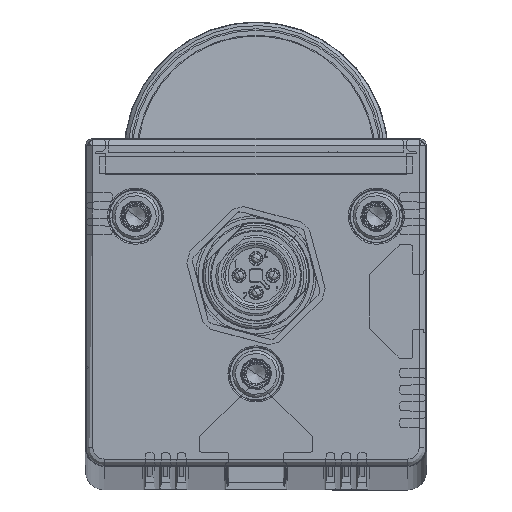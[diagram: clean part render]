
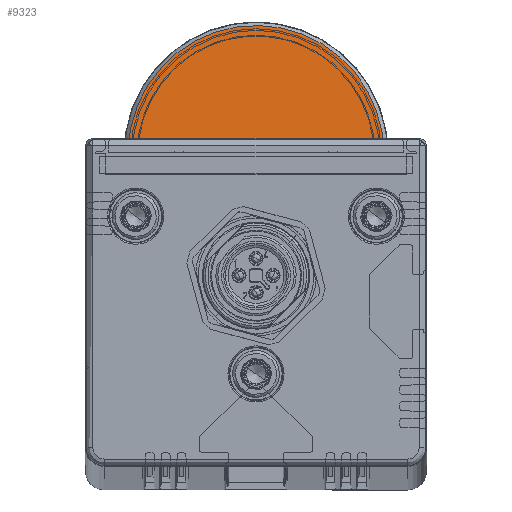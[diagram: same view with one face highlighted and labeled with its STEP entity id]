
A CAD part, top view. The second image highlights one B-rep face of the part: STEP entity #9323.
In plain terms, the highlighted planar face has unit normal (0, 0.087, 0.996).
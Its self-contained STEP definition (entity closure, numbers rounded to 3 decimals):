
#428 = CARTESIAN_POINT ( 'NONE',  ( -4.987, 20.248, -10.127 ) ) ;
#604 = EDGE_CURVE ( 'NONE', #14515, #14557, #5050, .T. ) ;
#644 = CARTESIAN_POINT ( 'NONE',  ( 9.634, 18.309, -9.957 ) ) ;
#1712 = EDGE_CURVE ( 'NONE', #14557, #14515, #4593, .T. ) ;
#2250 = CARTESIAN_POINT ( 'NONE',  ( 18.181, 7.762, -9.035 ) ) ;
#2461 = CARTESIAN_POINT ( 'NONE',  ( -16.649, 11.217, -9.337 ) ) ;
#3841 = CARTESIAN_POINT ( 'NONE',  ( 12.696, 16.094, -9.764 ) ) ;
#3955 = CARTESIAN_POINT ( 'NONE',  ( 6.196, 19.879, -10.095 ) ) ;
#4173 = CARTESIAN_POINT ( 'NONE',  ( -9.634, 18.309, -9.957 ) ) ;
#4593 = LINE ( 'NONE', #16827, #8621 ) ;
#5050 = B_SPLINE_CURVE_WITH_KNOTS ( 'NONE', 3,
 ( #19362, #12686, #14496, #7373, #2250, #9278, #19255, #14383, #19472, #3841, #19690, #644, #15966, #3955, #17655, #9067, #21417, #7593, #9176, #428, #5891, #12799, #4173, #11092, #17780, #10756, #5768, #2461, #9390, #7138, #14052, #20960, #5446, #21081 ),
 .UNSPECIFIED., .F., .F.,
 ( 4, 2, 2, 2, 2, 2, 2, 2, 2, 2, 2, 2, 2, 2, 2, 2, 4 ),
 ( 0., 0.062, 0.125, 0.187, 0.25, 0.312, 0.375, 0.437, 0.5, 0.562, 0.625, 0.687, 0.75, 0.812, 0.875, 0.937, 1. ),
 .UNSPECIFIED. ) ;
#5446 = CARTESIAN_POINT ( 'NONE',  ( -19.116, 2.816, -8.602 ) ) ;
#5768 = CARTESIAN_POINT ( 'NONE',  ( -15.264, 13.321, -9.521 ) ) ;
#5891 = CARTESIAN_POINT ( 'NONE',  ( -6.197, 19.879, -10.095 ) ) ;
#7138 = CARTESIAN_POINT ( 'NONE',  ( -18.181, 7.763, -9.035 ) ) ;
#7153 = CARTESIAN_POINT ( 'NONE',  ( -19.102, 1.555, -8.492 ) ) ;
#7266 = CARTESIAN_POINT ( 'NONE',  ( 19.102, 1.555, -8.492 ) ) ;
#7373 = CARTESIAN_POINT ( 'NONE',  ( 18.537, 6.55, -8.929 ) ) ;
#7593 = CARTESIAN_POINT ( 'NONE',  ( -1.259, 20.868, -10.181 ) ) ;
#7780 = DIRECTION ( 'NONE',  ( 1., 0., 0. ) ) ;
#8085 = CARTESIAN_POINT ( 'NONE',  ( -23.75, 1.65, -8.5 ) ) ;
#8621 = VECTOR ( 'NONE', #7780, 1000. ) ;
#9067 = CARTESIAN_POINT ( 'NONE',  ( 2.517, 20.743, -10.17 ) ) ;
#9176 = CARTESIAN_POINT ( 'NONE',  ( -2.518, 20.743, -10.17 ) ) ;
#9278 = CARTESIAN_POINT ( 'NONE',  ( 17.236, 10.097, -9.239 ) ) ;
#9323 = ADVANCED_FACE ( 'NONE', ( #14882 ), #16564, .T. ) ;
#9390 = CARTESIAN_POINT ( 'NONE',  ( -17.236, 10.097, -9.239 ) ) ;
#10756 = CARTESIAN_POINT ( 'NONE',  ( -14.468, 14.303, -9.607 ) ) ;
#11092 = CARTESIAN_POINT ( 'NONE',  ( -11.723, 16.901, -9.834 ) ) ;
#11311 = EDGE_LOOP ( 'NONE', ( #14982, #18696 ) ) ;
#12686 = CARTESIAN_POINT ( 'NONE',  ( 19.116, 2.815, -8.602 ) ) ;
#12799 = CARTESIAN_POINT ( 'NONE',  ( -8.521, 18.909, -10.01 ) ) ;
#14052 = CARTESIAN_POINT ( 'NONE',  ( -18.537, 6.549, -8.929 ) ) ;
#14383 = CARTESIAN_POINT ( 'NONE',  ( 15.264, 13.321, -9.521 ) ) ;
#14496 = CARTESIAN_POINT ( 'NONE',  ( 19.005, 4.074, -8.712 ) ) ;
#14515 = VERTEX_POINT ( 'NONE', #7266 ) ;
#14557 = VERTEX_POINT ( 'NONE', #7153 ) ;
#14882 = FACE_OUTER_BOUND ( 'NONE', #11311, .T. ) ;
#14982 = ORIENTED_EDGE ( 'NONE', *, *, #1712, .T. ) ;
#14988 = DIRECTION ( 'NONE',  ( 0., 0.087, 0.996 ) ) ;
#15966 = CARTESIAN_POINT ( 'NONE',  ( 8.521, 18.908, -10.01 ) ) ;
#16564 = PLANE ( 'NONE',  #17020 ) ;
#16793 = DIRECTION ( 'NONE',  ( 0., -0.996, 0.087 ) ) ;
#16827 = CARTESIAN_POINT ( 'NONE',  ( -23.75, 1.555, -8.492 ) ) ;
#17020 = AXIS2_PLACEMENT_3D ( 'NONE', #8085, #14988, #16793 ) ;
#17655 = CARTESIAN_POINT ( 'NONE',  ( 4.988, 20.248, -10.127 ) ) ;
#17780 = CARTESIAN_POINT ( 'NONE',  ( -12.696, 16.094, -9.764 ) ) ;
#18696 = ORIENTED_EDGE ( 'NONE', *, *, #604, .T. ) ;
#19255 = CARTESIAN_POINT ( 'NONE',  ( 16.648, 11.217, -9.337 ) ) ;
#19362 = CARTESIAN_POINT ( 'NONE',  ( 19.102, 1.555, -8.492 ) ) ;
#19472 = CARTESIAN_POINT ( 'NONE',  ( 14.467, 14.303, -9.607 ) ) ;
#19690 = CARTESIAN_POINT ( 'NONE',  ( 11.723, 16.901, -9.834 ) ) ;
#20960 = CARTESIAN_POINT ( 'NONE',  ( -19.005, 4.075, -8.712 ) ) ;
#21081 = CARTESIAN_POINT ( 'NONE',  ( -19.102, 1.555, -8.492 ) ) ;
#21417 = CARTESIAN_POINT ( 'NONE',  ( 1.259, 20.868, -10.181 ) ) ;
